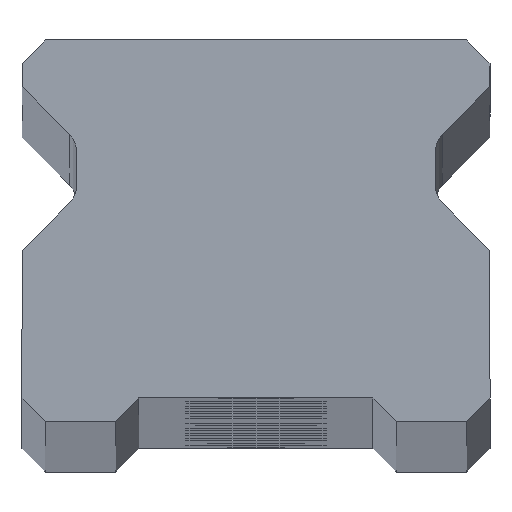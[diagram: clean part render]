
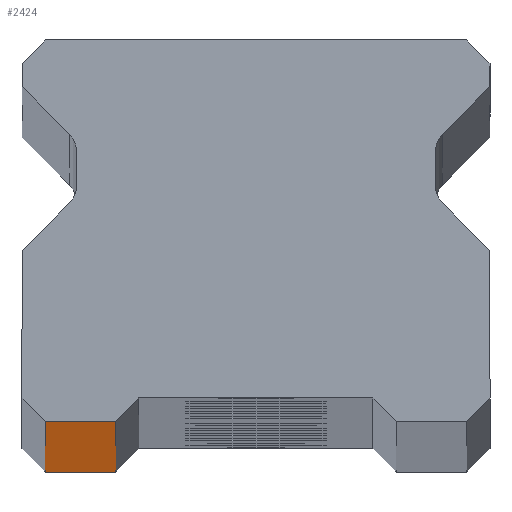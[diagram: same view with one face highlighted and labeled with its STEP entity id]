
A CAD part, top view. The second image highlights one B-rep face of the part: STEP entity #2424.
In plain terms, the highlighted planar face has unit normal (0, -1, 0).
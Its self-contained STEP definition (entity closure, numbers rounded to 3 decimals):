
#59 = VECTOR ( 'NONE', #2137, 1000. ) ;
#273 = PLANE ( 'NONE',  #662 ) ;
#351 = LINE ( 'NONE', #2286, #2969 ) ;
#398 = CARTESIAN_POINT ( 'NONE',  ( -6., 0., -620. ) ) ;
#653 = DIRECTION ( 'NONE',  ( -1., 0., 0. ) ) ;
#662 = AXIS2_PLACEMENT_3D ( 'NONE', #3221, #675, #653 ) ;
#675 = DIRECTION ( 'NONE',  ( 0., 1., 0. ) ) ;
#706 = CARTESIAN_POINT ( 'NONE',  ( -9., 0., 620. ) ) ;
#821 = CARTESIAN_POINT ( 'NONE',  ( -6., 0., 620. ) ) ;
#961 = VERTEX_POINT ( 'NONE', #821 ) ;
#1038 = ORIENTED_EDGE ( 'NONE', *, *, #1708, .T. ) ;
#1226 = ORIENTED_EDGE ( 'NONE', *, *, #2030, .T. ) ;
#1349 = CARTESIAN_POINT ( 'NONE',  ( 10., 0., 620. ) ) ;
#1463 = VERTEX_POINT ( 'NONE', #2602 ) ;
#1518 = ORIENTED_EDGE ( 'NONE', *, *, #1937, .T. ) ;
#1659 = DIRECTION ( 'NONE',  ( 1., 0., 0. ) ) ;
#1664 = DIRECTION ( 'NONE',  ( 1., 0., 0. ) ) ;
#1708 = EDGE_CURVE ( 'NONE', #4137, #961, #3699, .T. ) ;
#1937 = EDGE_CURVE ( 'NONE', #2047, #4137, #351, .T. ) ;
#2030 = EDGE_CURVE ( 'NONE', #1463, #2047, #3898, .T. ) ;
#2047 = VERTEX_POINT ( 'NONE', #3037 ) ;
#2137 = DIRECTION ( 'NONE',  ( 0., 0., 1. ) ) ;
#2286 = CARTESIAN_POINT ( 'NONE',  ( 10., 0., -620. ) ) ;
#2424 = ADVANCED_FACE ( 'NONE', ( #3788 ), #273, .F. ) ;
#2602 = CARTESIAN_POINT ( 'NONE',  ( -9., 0., 620. ) ) ;
#2910 = LINE ( 'NONE', #1349, #3784 ) ;
#2936 = DIRECTION ( 'NONE',  ( 0., 0., -1. ) ) ;
#2969 = VECTOR ( 'NONE', #1664, 1000. ) ;
#3037 = CARTESIAN_POINT ( 'NONE',  ( -9., 0., -620. ) ) ;
#3061 = EDGE_LOOP ( 'NONE', ( #1518, #1038, #3790, #1226 ) ) ;
#3069 = CARTESIAN_POINT ( 'NONE',  ( -6., 0., -620. ) ) ;
#3221 = CARTESIAN_POINT ( 'NONE',  ( 10., 0., 620. ) ) ;
#3442 = EDGE_CURVE ( 'NONE', #1463, #961, #2910, .T. ) ;
#3699 = LINE ( 'NONE', #3069, #59 ) ;
#3784 = VECTOR ( 'NONE', #1659, 1000. ) ;
#3788 = FACE_OUTER_BOUND ( 'NONE', #3061, .T. ) ;
#3790 = ORIENTED_EDGE ( 'NONE', *, *, #3442, .F. ) ;
#3793 = VECTOR ( 'NONE', #2936, 1000. ) ;
#3898 = LINE ( 'NONE', #706, #3793 ) ;
#4137 = VERTEX_POINT ( 'NONE', #398 ) ;
